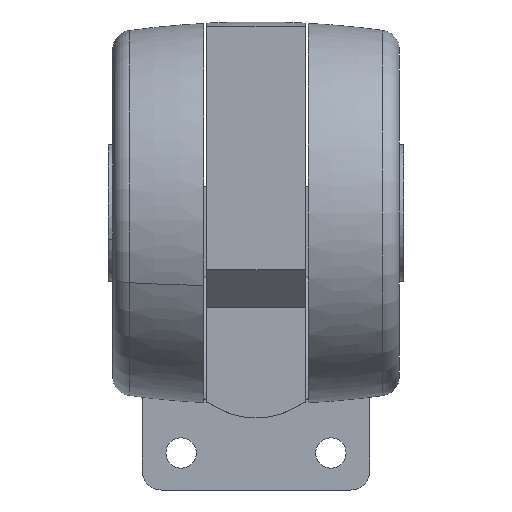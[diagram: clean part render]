
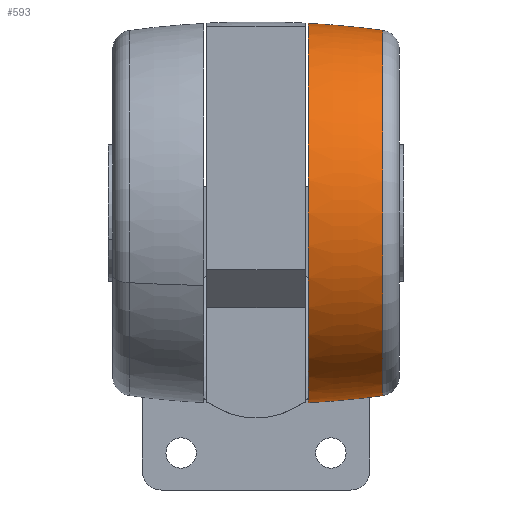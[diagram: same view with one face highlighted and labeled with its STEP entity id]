
A CAD part, front view. The second image highlights one B-rep face of the part: STEP entity #593.
In plain terms, the highlighted toroidal (fillet/blend) face has major radius 199.622 mm and minor radius 250 mm.
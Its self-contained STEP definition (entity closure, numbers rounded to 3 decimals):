
#9 = TOROIDAL_SURFACE ( 'NONE', #473, -199.622, 250. ) ;
#27 = VERTEX_POINT ( 'NONE', #1678 ) ;
#102 = VERTEX_POINT ( 'NONE', #1167 ) ;
#144 = CARTESIAN_POINT ( 'NONE',  ( 13.75, 0., 0. ) ) ;
#180 = CARTESIAN_POINT ( 'NONE',  ( 33.418, 0., 48.135 ) ) ;
#189 = CIRCLE ( 'NONE', #1373, 48.135 ) ;
#256 = DIRECTION ( 'NONE',  ( 0., 0., 1. ) ) ;
#270 = CARTESIAN_POINT ( 'NONE',  ( 33.418, 0., 0. ) ) ;
#337 = DIRECTION ( 'NONE',  ( -1., 0., 0. ) ) ;
#346 = EDGE_CURVE ( 'NONE', #102, #759, #189, .T. ) ;
#388 = CARTESIAN_POINT ( 'NONE',  ( 13.75, 0., 50. ) ) ;
#395 = CARTESIAN_POINT ( 'NONE',  ( 0., 0., 199.622 ) ) ;
#397 = ORIENTED_EDGE ( 'NONE', *, *, #508, .T. ) ;
#404 = DIRECTION ( 'NONE',  ( -1., 0., 0. ) ) ;
#450 = CARTESIAN_POINT ( 'NONE',  ( 0., 0., 0. ) ) ;
#463 = ORIENTED_EDGE ( 'NONE', *, *, #346, .T. ) ;
#473 = AXIS2_PLACEMENT_3D ( 'NONE', #450, #404, #256 ) ;
#508 = EDGE_CURVE ( 'NONE', #759, #1271, #521, .T. ) ;
#521 = CIRCLE ( 'NONE', #1398, 250. ) ;
#593 = ADVANCED_FACE ( 'NONE', ( #1292 ), #9, .T. ) ;
#602 = EDGE_CURVE ( 'NONE', #27, #1271, #1070, .T. ) ;
#665 = DIRECTION ( 'NONE',  ( 0., 0., -1. ) ) ;
#674 = CARTESIAN_POINT ( 'NONE',  ( 0., 0., -199.622 ) ) ;
#759 = VERTEX_POINT ( 'NONE', #180 ) ;
#825 = DIRECTION ( 'NONE',  ( 0., -1., 0. ) ) ;
#855 = DIRECTION ( 'NONE',  ( 0., 1., 0. ) ) ;
#1070 = CIRCLE ( 'NONE', #1161, 50. ) ;
#1077 = EDGE_LOOP ( 'NONE', ( #1650, #463, #397, #1252 ) ) ;
#1160 = CIRCLE ( 'NONE', #1596, 250. ) ;
#1161 = AXIS2_PLACEMENT_3D ( 'NONE', #144, #1584, #1595 ) ;
#1167 = CARTESIAN_POINT ( 'NONE',  ( 33.418, 0., -48.135 ) ) ;
#1252 = ORIENTED_EDGE ( 'NONE', *, *, #602, .F. ) ;
#1271 = VERTEX_POINT ( 'NONE', #388 ) ;
#1292 = FACE_OUTER_BOUND ( 'NONE', #1077, .T. ) ;
#1373 = AXIS2_PLACEMENT_3D ( 'NONE', #270, #337, #1506 ) ;
#1398 = AXIS2_PLACEMENT_3D ( 'NONE', #674, #825, #665 ) ;
#1506 = DIRECTION ( 'NONE',  ( 0., 0., 1. ) ) ;
#1584 = DIRECTION ( 'NONE',  ( -1., 0., 0. ) ) ;
#1595 = DIRECTION ( 'NONE',  ( 0., 0., 1. ) ) ;
#1596 = AXIS2_PLACEMENT_3D ( 'NONE', #395, #855, #1882 ) ;
#1650 = ORIENTED_EDGE ( 'NONE', *, *, #1838, .F. ) ;
#1678 = CARTESIAN_POINT ( 'NONE',  ( 13.75, 0., -50. ) ) ;
#1838 = EDGE_CURVE ( 'NONE', #102, #27, #1160, .T. ) ;
#1882 = DIRECTION ( 'NONE',  ( 0., 0., 1. ) ) ;
